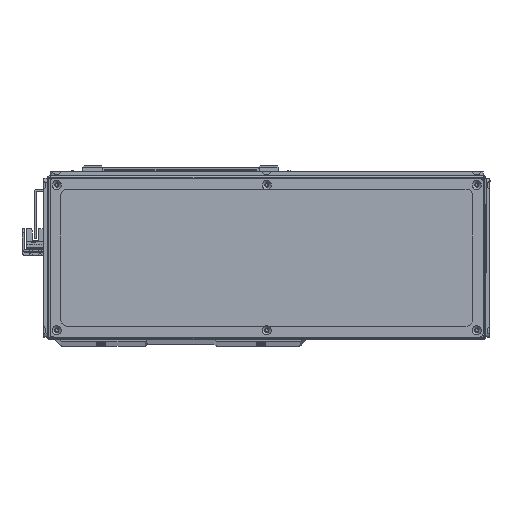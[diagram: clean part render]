
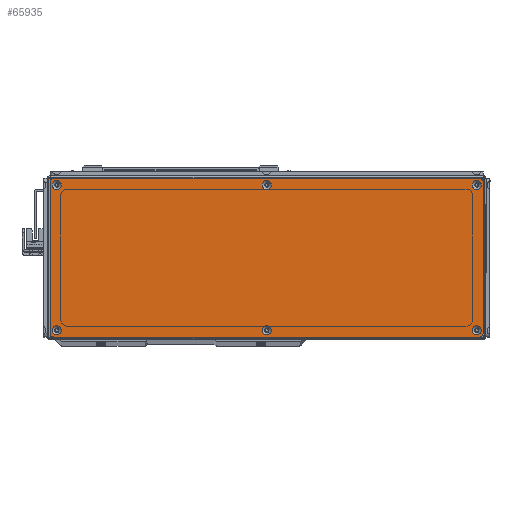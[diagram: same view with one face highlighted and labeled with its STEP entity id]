
A CAD part, top view. The second image highlights one B-rep face of the part: STEP entity #65935.
In plain terms, the highlighted planar face has unit normal (0, 0, 1) as drawn and (0, -1, 0) by its records, which use the part's own axes.
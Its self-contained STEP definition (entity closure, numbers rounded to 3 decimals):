
#1166=FACE_BOUND('',#9810,.T.);
#1167=FACE_BOUND('',#9811,.T.);
#1168=FACE_BOUND('',#9812,.T.);
#1169=FACE_BOUND('',#9813,.T.);
#1170=FACE_BOUND('',#9814,.T.);
#1171=FACE_BOUND('',#9815,.T.);
#1986=PLANE('',#71040);
#5938=FACE_OUTER_BOUND('',#9809,.T.);
#9809=EDGE_LOOP('',(#51657,#51658,#51659,#51660,#51661,#51662,#51663,#51664));
#9810=EDGE_LOOP('',(#51665));
#9811=EDGE_LOOP('',(#51666));
#9812=EDGE_LOOP('',(#51667));
#9813=EDGE_LOOP('',(#51668));
#9814=EDGE_LOOP('',(#51669));
#9815=EDGE_LOOP('',(#51670));
#14273=LINE('',#99023,#22121);
#14274=LINE('',#99027,#22122);
#14275=LINE('',#99031,#22123);
#14276=LINE('',#99034,#22124);
#22121=VECTOR('',#80443,10.);
#22122=VECTOR('',#80446,10.);
#22123=VECTOR('',#80449,10.);
#22124=VECTOR('',#80452,10.);
#29079=CIRCLE('',#71008,3.45);
#29082=CIRCLE('',#71013,3.45);
#29085=CIRCLE('',#71018,3.45);
#29088=CIRCLE('',#71023,3.45);
#29091=CIRCLE('',#71028,3.45);
#29094=CIRCLE('',#71033,3.45);
#29097=CIRCLE('',#71038,3.);
#29099=CIRCLE('',#71041,3.);
#29100=CIRCLE('',#71042,3.);
#29101=CIRCLE('',#71043,3.);
#31589=VERTEX_POINT('',#98953);
#31592=VERTEX_POINT('',#98963);
#31595=VERTEX_POINT('',#98973);
#31598=VERTEX_POINT('',#98983);
#31601=VERTEX_POINT('',#98993);
#31604=VERTEX_POINT('',#99003);
#31607=VERTEX_POINT('',#99013);
#31608=VERTEX_POINT('',#99014);
#31611=VERTEX_POINT('',#99022);
#31612=VERTEX_POINT('',#99024);
#31613=VERTEX_POINT('',#99026);
#31614=VERTEX_POINT('',#99028);
#31615=VERTEX_POINT('',#99030);
#31616=VERTEX_POINT('',#99032);
#38968=EDGE_CURVE('',#31589,#31589,#29079,.T.);
#38973=EDGE_CURVE('',#31592,#31592,#29082,.T.);
#38978=EDGE_CURVE('',#31595,#31595,#29085,.T.);
#38983=EDGE_CURVE('',#31598,#31598,#29088,.T.);
#38988=EDGE_CURVE('',#31601,#31601,#29091,.T.);
#38993=EDGE_CURVE('',#31604,#31604,#29094,.T.);
#38998=EDGE_CURVE('',#31607,#31608,#29097,.T.);
#39002=EDGE_CURVE('',#31607,#31611,#14273,.T.);
#39003=EDGE_CURVE('',#31612,#31611,#29099,.T.);
#39004=EDGE_CURVE('',#31612,#31613,#14274,.T.);
#39005=EDGE_CURVE('',#31614,#31613,#29100,.T.);
#39006=EDGE_CURVE('',#31614,#31615,#14275,.T.);
#39007=EDGE_CURVE('',#31616,#31615,#29101,.T.);
#39008=EDGE_CURVE('',#31616,#31608,#14276,.T.);
#51657=ORIENTED_EDGE('',*,*,#38998,.F.);
#51658=ORIENTED_EDGE('',*,*,#39002,.T.);
#51659=ORIENTED_EDGE('',*,*,#39003,.F.);
#51660=ORIENTED_EDGE('',*,*,#39004,.T.);
#51661=ORIENTED_EDGE('',*,*,#39005,.F.);
#51662=ORIENTED_EDGE('',*,*,#39006,.T.);
#51663=ORIENTED_EDGE('',*,*,#39007,.F.);
#51664=ORIENTED_EDGE('',*,*,#39008,.T.);
#51665=ORIENTED_EDGE('',*,*,#38968,.T.);
#51666=ORIENTED_EDGE('',*,*,#38973,.T.);
#51667=ORIENTED_EDGE('',*,*,#38978,.T.);
#51668=ORIENTED_EDGE('',*,*,#38983,.T.);
#51669=ORIENTED_EDGE('',*,*,#38988,.T.);
#51670=ORIENTED_EDGE('',*,*,#38993,.T.);
#65935=ADVANCED_FACE('',(#5938,#1166,#1167,#1168,#1169,#1170,#1171),#1986,
 .T.);
#71008=AXIS2_PLACEMENT_3D('',#98954,#80363,#80364);
#71013=AXIS2_PLACEMENT_3D('',#98964,#80375,#80376);
#71018=AXIS2_PLACEMENT_3D('',#98974,#80387,#80388);
#71023=AXIS2_PLACEMENT_3D('',#98984,#80399,#80400);
#71028=AXIS2_PLACEMENT_3D('',#98994,#80411,#80412);
#71033=AXIS2_PLACEMENT_3D('',#99004,#80423,#80424);
#71038=AXIS2_PLACEMENT_3D('',#99015,#80435,#80436);
#71040=AXIS2_PLACEMENT_3D('',#99021,#80441,#80442);
#71041=AXIS2_PLACEMENT_3D('',#99025,#80444,#80445);
#71042=AXIS2_PLACEMENT_3D('',#99029,#80447,#80448);
#71043=AXIS2_PLACEMENT_3D('',#99033,#80450,#80451);
#80363=DIRECTION('center_axis',(0.,1.,0.));
#80364=DIRECTION('ref_axis',(1.,0.,0.));
#80375=DIRECTION('center_axis',(0.,1.,0.));
#80376=DIRECTION('ref_axis',(1.,0.,0.));
#80387=DIRECTION('center_axis',(0.,1.,0.));
#80388=DIRECTION('ref_axis',(1.,0.,0.));
#80399=DIRECTION('center_axis',(0.,1.,0.));
#80400=DIRECTION('ref_axis',(1.,0.,0.));
#80411=DIRECTION('center_axis',(0.,1.,0.));
#80412=DIRECTION('ref_axis',(1.,0.,0.));
#80423=DIRECTION('center_axis',(0.,1.,0.));
#80424=DIRECTION('ref_axis',(1.,0.,0.));
#80435=DIRECTION('center_axis',(0.,1.,0.));
#80436=DIRECTION('ref_axis',(-0.707,0.,0.707));
#80441=DIRECTION('center_axis',(0.,-1.,0.));
#80442=DIRECTION('ref_axis',(0.,0.,-1.));
#80443=DIRECTION('',(0.,0.,-1.));
#80444=DIRECTION('center_axis',(0.,1.,0.));
#80445=DIRECTION('ref_axis',(-0.707,0.,-0.707));
#80446=DIRECTION('',(1.,0.,0.));
#80447=DIRECTION('center_axis',(0.,1.,0.));
#80448=DIRECTION('ref_axis',(0.707,0.,-0.707));
#80449=DIRECTION('',(0.,0.,1.));
#80450=DIRECTION('center_axis',(0.,1.,0.));
#80451=DIRECTION('ref_axis',(0.707,0.,0.707));
#80452=DIRECTION('',(-1.,0.,0.));
#98953=CARTESIAN_POINT('',(154.05,-1.5,54.5));
#98954=CARTESIAN_POINT('Origin',(157.5,-1.5,54.5));
#98963=CARTESIAN_POINT('',(-3.45,-1.5,54.5));
#98964=CARTESIAN_POINT('Origin',(0.,-1.5,54.5));
#98973=CARTESIAN_POINT('',(-160.95,-1.5,54.5));
#98974=CARTESIAN_POINT('Origin',(-157.5,-1.5,54.5));
#98983=CARTESIAN_POINT('',(-160.95,-1.5,-54.5));
#98984=CARTESIAN_POINT('Origin',(-157.5,-1.5,-54.5));
#98993=CARTESIAN_POINT('',(-3.45,-1.5,-54.5));
#98994=CARTESIAN_POINT('Origin',(0.,-1.5,-54.5));
#99003=CARTESIAN_POINT('',(154.05,-1.5,-54.5));
#99004=CARTESIAN_POINT('Origin',(157.5,-1.5,-54.5));
#99013=CARTESIAN_POINT('',(-162.5,-1.5,56.5));
#99014=CARTESIAN_POINT('',(-159.5,-1.5,59.5));
#99015=CARTESIAN_POINT('Origin',(-159.5,-1.5,56.5));
#99021=CARTESIAN_POINT('Origin',(0.,-1.5,0.));
#99022=CARTESIAN_POINT('',(-162.5,-1.5,-56.5));
#99023=CARTESIAN_POINT('',(-162.5,-1.5,59.5));
#99024=CARTESIAN_POINT('',(-159.5,-1.5,-59.5));
#99025=CARTESIAN_POINT('Origin',(-159.5,-1.5,-56.5));
#99026=CARTESIAN_POINT('',(159.5,-1.5,-59.5));
#99027=CARTESIAN_POINT('',(-162.5,-1.5,-59.5));
#99028=CARTESIAN_POINT('',(162.5,-1.5,-56.5));
#99029=CARTESIAN_POINT('Origin',(159.5,-1.5,-56.5));
#99030=CARTESIAN_POINT('',(162.5,-1.5,56.5));
#99031=CARTESIAN_POINT('',(162.5,-1.5,-59.5));
#99032=CARTESIAN_POINT('',(159.5,-1.5,59.5));
#99033=CARTESIAN_POINT('Origin',(159.5,-1.5,56.5));
#99034=CARTESIAN_POINT('',(162.5,-1.5,59.5));
